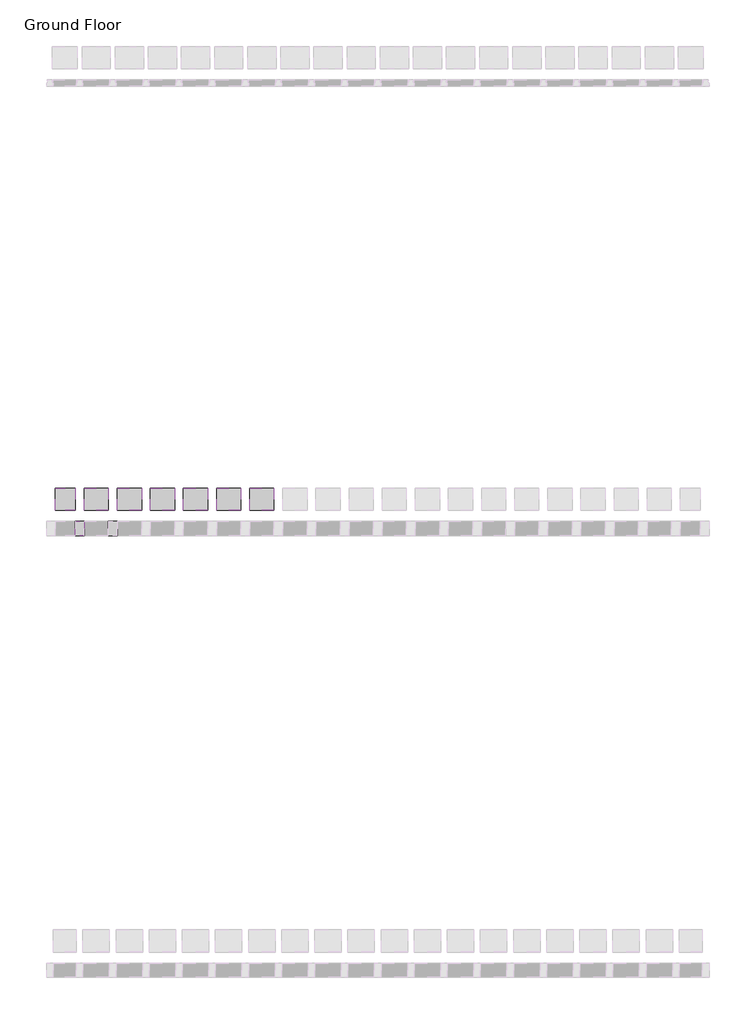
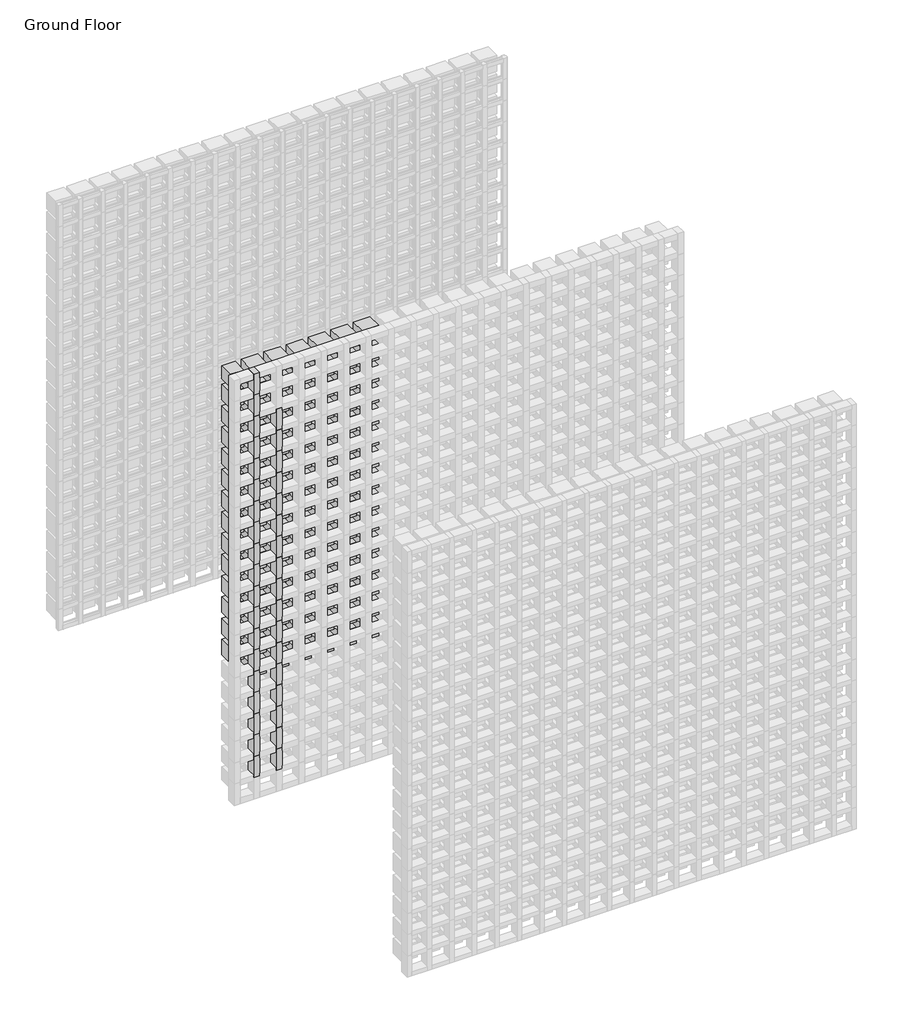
# One storey, part 80 of 350: 104 plates, 36 members.
"""IFC4 building model written with IfcOpenShell, lengths in millimetres."""

from ifc_helpers import new_model, si_unit, origin, place, context, project, spatial, transform, mapped, element, save
from components import rectangular_mullion_655930e9, empty_system_panel_empty_3b500fad, empty_system_panel_empty_e4510abc, empty_system_panel_empty_1faefc6a, empty_system_panel_empty_7f4523f5

model = new_model("IFC4")

# Units and contexts
model_context = context("Model", 3, world=origin())
ifc_project = project(units=[si_unit("LENGTHUNIT", "METRE", prefix="MILLI")], contexts=[model_context])

# Site, building, storey
site = spatial("IfcSite", under=ifc_project)
building = spatial("IfcBuilding", under=site)
storey = spatial("IfcBuildingStorey", under=building, Name="Ground Floor", Elevation=0.0)

# Members
placement = place(None, origin())
rectangular_mullion_shape = rectangular_mullion_655930e9(model_context)
element("IfcMember", 1, ObjectType="Rectangular Mullion : Batten_Timber_Modinex_Austratus_Grid_Fascia_40x65_AlaskanYellowCedar", at=placement, inside=storey, context=model_context, shape_type="MappedRepresentation", body=[
    mapped(rectangular_mullion_shape, transform((2066.4361642, 40968.2978302, 150.0), x_axis=(1.0, 0.0, 0.0), y_axis=(0.0, -1.0, 0.0), z_axis=(0.0, 0.0, -1.0))),
])
element("IfcMember", 2, ObjectType="Rectangular Mullion : Batten_Timber_Modinex_Austratus_Grid_Fascia_40x65_AlaskanYellowCedar", at=placement, inside=storey, context=model_context, shape_type="MappedRepresentation", body=[
    mapped(rectangular_mullion_shape, transform((2066.4361642, 40968.2978302, 300.0), x_axis=(1.0, 0.0, 0.0), y_axis=(0.0, -1.0, 0.0), z_axis=(0.0, 0.0, -1.0))),
])
element("IfcMember", 3, ObjectType="Rectangular Mullion : Batten_Timber_Modinex_Austratus_Grid_Fascia_40x65_AlaskanYellowCedar", at=placement, inside=storey, context=model_context, shape_type="MappedRepresentation", body=[
    mapped(rectangular_mullion_shape, transform((2066.4361642, 40968.2978302, 450.0), x_axis=(1.0, 0.0, 0.0), y_axis=(0.0, -1.0, 0.0), z_axis=(0.0, 0.0, -1.0))),
])
element("IfcMember", 4, ObjectType="Rectangular Mullion : Batten_Timber_Modinex_Austratus_Grid_Fascia_40x65_AlaskanYellowCedar", at=placement, inside=storey, context=model_context, shape_type="MappedRepresentation", body=[
    mapped(rectangular_mullion_shape, transform((2066.4361642, 40968.2978302, 600.0), x_axis=(1.0, 0.0, 0.0), y_axis=(0.0, -1.0, 0.0), z_axis=(0.0, 0.0, -1.0))),
])
element("IfcMember", 5, ObjectType="Rectangular Mullion : Batten_Timber_Modinex_Austratus_Grid_Fascia_40x65_AlaskanYellowCedar", at=placement, inside=storey, context=model_context, shape_type="MappedRepresentation", body=[
    mapped(rectangular_mullion_shape, transform((2066.4361642, 40968.2978302, 750.0), x_axis=(1.0, 0.0, 0.0), y_axis=(0.0, -1.0, 0.0), z_axis=(0.0, 0.0, -1.0))),
])
element("IfcMember", 6, ObjectType="Rectangular Mullion : Batten_Timber_Modinex_Austratus_Grid_Fascia_40x65_AlaskanYellowCedar", at=placement, inside=storey, context=model_context, shape_type="MappedRepresentation", body=[
    mapped(rectangular_mullion_shape, transform((2066.4361642, 40968.2978302, 900.0), x_axis=(1.0, 0.0, 0.0), y_axis=(0.0, -1.0, 0.0), z_axis=(0.0, 0.0, -1.0))),
])
element("IfcMember", 7, ObjectType="Rectangular Mullion : Batten_Timber_Modinex_Austratus_Grid_Fascia_40x65_AlaskanYellowCedar", at=placement, inside=storey, context=model_context, shape_type="MappedRepresentation", body=[
    mapped(rectangular_mullion_shape, transform((2066.4361642, 40968.2978302, 1050.0), x_axis=(1.0, 0.0, 0.0), y_axis=(0.0, -1.0, 0.0), z_axis=(0.0, 0.0, -1.0))),
])
element("IfcMember", 8, ObjectType="Rectangular Mullion : Batten_Timber_Modinex_Austratus_Grid_Fascia_40x65_AlaskanYellowCedar", at=placement, inside=storey, context=model_context, shape_type="MappedRepresentation", body=[
    mapped(rectangular_mullion_shape, transform((2066.4361642, 40968.2978302, 1200.0), x_axis=(1.0, 0.0, 0.0), y_axis=(0.0, -1.0, 0.0), z_axis=(0.0, 0.0, -1.0))),
])
element("IfcMember", 9, ObjectType="Rectangular Mullion : Batten_Timber_Modinex_Austratus_Grid_Fascia_40x65_AlaskanYellowCedar", at=placement, inside=storey, context=model_context, shape_type="MappedRepresentation", body=[
    mapped(rectangular_mullion_shape, transform((2066.4361642, 40968.2978302, 1350.0), x_axis=(1.0, 0.0, 0.0), y_axis=(0.0, -1.0, 0.0), z_axis=(0.0, 0.0, -1.0))),
])
element("IfcMember", 10, ObjectType="Rectangular Mullion : Batten_Timber_Modinex_Austratus_Grid_Fascia_40x65_AlaskanYellowCedar", at=placement, inside=storey, context=model_context, shape_type="MappedRepresentation", body=[
    mapped(rectangular_mullion_shape, transform((2066.4361642, 40968.2978302, 1500.0), x_axis=(1.0, 0.0, 0.0), y_axis=(0.0, -1.0, 0.0), z_axis=(0.0, 0.0, -1.0))),
])
element("IfcMember", 11, ObjectType="Rectangular Mullion : Batten_Timber_Modinex_Austratus_Grid_Fascia_40x65_AlaskanYellowCedar", at=placement, inside=storey, context=model_context, shape_type="MappedRepresentation", body=[
    mapped(rectangular_mullion_shape, transform((2066.4361642, 40968.2978302, 1650.0), x_axis=(1.0, 0.0, 0.0), y_axis=(0.0, -1.0, 0.0), z_axis=(0.0, 0.0, -1.0))),
])
element("IfcMember", 12, ObjectType="Rectangular Mullion : Batten_Timber_Modinex_Austratus_Grid_Fascia_40x65_AlaskanYellowCedar", at=placement, inside=storey, context=model_context, shape_type="MappedRepresentation", body=[
    mapped(rectangular_mullion_shape, transform((2066.4361642, 40968.2978302, 1800.0), x_axis=(1.0, 0.0, 0.0), y_axis=(0.0, -1.0, 0.0), z_axis=(0.0, 0.0, -1.0))),
])
element("IfcMember", 13, ObjectType="Rectangular Mullion : Batten_Timber_Modinex_Austratus_Grid_Fascia_40x65_AlaskanYellowCedar", at=placement, inside=storey, context=model_context, shape_type="MappedRepresentation", body=[
    mapped(rectangular_mullion_shape, transform((2066.4361642, 40968.2978302, 1950.0), x_axis=(1.0, 0.0, 0.0), y_axis=(0.0, -1.0, 0.0), z_axis=(0.0, 0.0, -1.0))),
])
element("IfcMember", 14, ObjectType="Rectangular Mullion : Batten_Timber_Modinex_Austratus_Grid_Fascia_40x65_AlaskanYellowCedar", at=placement, inside=storey, context=model_context, shape_type="MappedRepresentation", body=[
    mapped(rectangular_mullion_shape, transform((2066.4361642, 40968.2978302, 2100.0), x_axis=(1.0, 0.0, 0.0), y_axis=(0.0, -1.0, 0.0), z_axis=(0.0, 0.0, -1.0))),
])
element("IfcMember", 15, ObjectType="Rectangular Mullion : Batten_Timber_Modinex_Austratus_Grid_Fascia_40x65_AlaskanYellowCedar", at=placement, inside=storey, context=model_context, shape_type="MappedRepresentation", body=[
    mapped(rectangular_mullion_shape, transform((2066.4361642, 40968.2978302, 2250.0), x_axis=(1.0, 0.0, 0.0), y_axis=(0.0, -1.0, 0.0), z_axis=(0.0, 0.0, -1.0))),
])
element("IfcMember", 16, ObjectType="Rectangular Mullion : Batten_Timber_Modinex_Austratus_Grid_Fascia_40x65_AlaskanYellowCedar", at=placement, inside=storey, context=model_context, shape_type="MappedRepresentation", body=[
    mapped(rectangular_mullion_shape, transform((2066.4361642, 40968.2978302, 2400.0), x_axis=(1.0, 0.0, 0.0), y_axis=(0.0, -1.0, 0.0), z_axis=(0.0, 0.0, -1.0))),
])
element("IfcMember", 17, ObjectType="Rectangular Mullion : Batten_Timber_Modinex_Austratus_Grid_Fascia_40x65_AlaskanYellowCedar", at=placement, inside=storey, context=model_context, shape_type="MappedRepresentation", body=[
    mapped(rectangular_mullion_shape, transform((2066.4361642, 40968.2978302, 2550.0), x_axis=(1.0, 0.0, 0.0), y_axis=(0.0, -1.0, 0.0), z_axis=(0.0, 0.0, -1.0))),
])
element("IfcMember", 18, ObjectType="Rectangular Mullion : Batten_Timber_Modinex_Austratus_Grid_Fascia_40x65_AlaskanYellowCedar", at=placement, inside=storey, context=model_context, shape_type="MappedRepresentation", body=[
    mapped(rectangular_mullion_shape, transform((2066.4361642, 40968.2978302, 2700.0), x_axis=(1.0, 0.0, 0.0), y_axis=(0.0, -1.0, 0.0), z_axis=(0.0, 0.0, -1.0))),
])
element("IfcMember", 19, ObjectType="Rectangular Mullion : Batten_Timber_Modinex_Austratus_Grid_Fascia_40x65_AlaskanYellowCedar", at=placement, inside=storey, context=model_context, shape_type="MappedRepresentation", body=[
    mapped(rectangular_mullion_shape, transform((2216.4361642, 40968.2978302, 150.0), x_axis=(1.0, 0.0, 0.0), y_axis=(0.0, -1.0, 0.0), z_axis=(0.0, 0.0, -1.0))),
])
element("IfcMember", 20, ObjectType="Rectangular Mullion : Batten_Timber_Modinex_Austratus_Grid_Fascia_40x65_AlaskanYellowCedar", at=placement, inside=storey, context=model_context, shape_type="MappedRepresentation", body=[
    mapped(rectangular_mullion_shape, transform((2216.4361642, 40968.2978302, 300.0), x_axis=(1.0, 0.0, 0.0), y_axis=(0.0, -1.0, 0.0), z_axis=(0.0, 0.0, -1.0))),
])
element("IfcMember", 21, ObjectType="Rectangular Mullion : Batten_Timber_Modinex_Austratus_Grid_Fascia_40x65_AlaskanYellowCedar", at=placement, inside=storey, context=model_context, shape_type="MappedRepresentation", body=[
    mapped(rectangular_mullion_shape, transform((2216.4361642, 40968.2978302, 450.0), x_axis=(1.0, 0.0, 0.0), y_axis=(0.0, -1.0, 0.0), z_axis=(0.0, 0.0, -1.0))),
])
element("IfcMember", 22, ObjectType="Rectangular Mullion : Batten_Timber_Modinex_Austratus_Grid_Fascia_40x65_AlaskanYellowCedar", at=placement, inside=storey, context=model_context, shape_type="MappedRepresentation", body=[
    mapped(rectangular_mullion_shape, transform((2216.4361642, 40968.2978302, 600.0), x_axis=(1.0, 0.0, 0.0), y_axis=(0.0, -1.0, 0.0), z_axis=(0.0, 0.0, -1.0))),
])
element("IfcMember", 23, ObjectType="Rectangular Mullion : Batten_Timber_Modinex_Austratus_Grid_Fascia_40x65_AlaskanYellowCedar", at=placement, inside=storey, context=model_context, shape_type="MappedRepresentation", body=[
    mapped(rectangular_mullion_shape, transform((2216.4361642, 40968.2978302, 750.0), x_axis=(1.0, 0.0, 0.0), y_axis=(0.0, -1.0, 0.0), z_axis=(0.0, 0.0, -1.0))),
])
element("IfcMember", 24, ObjectType="Rectangular Mullion : Batten_Timber_Modinex_Austratus_Grid_Fascia_40x65_AlaskanYellowCedar", at=placement, inside=storey, context=model_context, shape_type="MappedRepresentation", body=[
    mapped(rectangular_mullion_shape, transform((2216.4361642, 40968.2978302, 900.0), x_axis=(1.0, 0.0, 0.0), y_axis=(0.0, -1.0, 0.0), z_axis=(0.0, 0.0, -1.0))),
])
element("IfcMember", 25, ObjectType="Rectangular Mullion : Batten_Timber_Modinex_Austratus_Grid_Fascia_40x65_AlaskanYellowCedar", at=placement, inside=storey, context=model_context, shape_type="MappedRepresentation", body=[
    mapped(rectangular_mullion_shape, transform((2216.4361642, 40968.2978302, 1050.0), x_axis=(1.0, 0.0, 0.0), y_axis=(0.0, -1.0, 0.0), z_axis=(0.0, 0.0, -1.0))),
])
element("IfcMember", 26, ObjectType="Rectangular Mullion : Batten_Timber_Modinex_Austratus_Grid_Fascia_40x65_AlaskanYellowCedar", at=placement, inside=storey, context=model_context, shape_type="MappedRepresentation", body=[
    mapped(rectangular_mullion_shape, transform((2216.4361642, 40968.2978302, 1200.0), x_axis=(1.0, 0.0, 0.0), y_axis=(0.0, -1.0, 0.0), z_axis=(0.0, 0.0, -1.0))),
])
element("IfcMember", 27, ObjectType="Rectangular Mullion : Batten_Timber_Modinex_Austratus_Grid_Fascia_40x65_AlaskanYellowCedar", at=placement, inside=storey, context=model_context, shape_type="MappedRepresentation", body=[
    mapped(rectangular_mullion_shape, transform((2216.4361642, 40968.2978302, 1350.0), x_axis=(1.0, 0.0, 0.0), y_axis=(0.0, -1.0, 0.0), z_axis=(0.0, 0.0, -1.0))),
])
element("IfcMember", 28, ObjectType="Rectangular Mullion : Batten_Timber_Modinex_Austratus_Grid_Fascia_40x65_AlaskanYellowCedar", at=placement, inside=storey, context=model_context, shape_type="MappedRepresentation", body=[
    mapped(rectangular_mullion_shape, transform((2216.4361642, 40968.2978302, 1500.0), x_axis=(1.0, 0.0, 0.0), y_axis=(0.0, -1.0, 0.0), z_axis=(0.0, 0.0, -1.0))),
])
element("IfcMember", 29, ObjectType="Rectangular Mullion : Batten_Timber_Modinex_Austratus_Grid_Fascia_40x65_AlaskanYellowCedar", at=placement, inside=storey, context=model_context, shape_type="MappedRepresentation", body=[
    mapped(rectangular_mullion_shape, transform((2216.4361642, 40968.2978302, 1650.0), x_axis=(1.0, 0.0, 0.0), y_axis=(0.0, -1.0, 0.0), z_axis=(0.0, 0.0, -1.0))),
])
element("IfcMember", 30, ObjectType="Rectangular Mullion : Batten_Timber_Modinex_Austratus_Grid_Fascia_40x65_AlaskanYellowCedar", at=placement, inside=storey, context=model_context, shape_type="MappedRepresentation", body=[
    mapped(rectangular_mullion_shape, transform((2216.4361642, 40968.2978302, 1800.0), x_axis=(1.0, 0.0, 0.0), y_axis=(0.0, -1.0, 0.0), z_axis=(0.0, 0.0, -1.0))),
])
element("IfcMember", 31, ObjectType="Rectangular Mullion : Batten_Timber_Modinex_Austratus_Grid_Fascia_40x65_AlaskanYellowCedar", at=placement, inside=storey, context=model_context, shape_type="MappedRepresentation", body=[
    mapped(rectangular_mullion_shape, transform((2216.4361642, 40968.2978302, 1950.0), x_axis=(1.0, 0.0, 0.0), y_axis=(0.0, -1.0, 0.0), z_axis=(0.0, 0.0, -1.0))),
])
element("IfcMember", 32, ObjectType="Rectangular Mullion : Batten_Timber_Modinex_Austratus_Grid_Fascia_40x65_AlaskanYellowCedar", at=placement, inside=storey, context=model_context, shape_type="MappedRepresentation", body=[
    mapped(rectangular_mullion_shape, transform((2216.4361642, 40968.2978302, 2100.0), x_axis=(1.0, 0.0, 0.0), y_axis=(0.0, -1.0, 0.0), z_axis=(0.0, 0.0, -1.0))),
])
element("IfcMember", 33, ObjectType="Rectangular Mullion : Batten_Timber_Modinex_Austratus_Grid_Fascia_40x65_AlaskanYellowCedar", at=placement, inside=storey, context=model_context, shape_type="MappedRepresentation", body=[
    mapped(rectangular_mullion_shape, transform((2216.4361642, 40968.2978302, 2250.0), x_axis=(1.0, 0.0, 0.0), y_axis=(0.0, -1.0, 0.0), z_axis=(0.0, 0.0, -1.0))),
])
element("IfcMember", 34, ObjectType="Rectangular Mullion : Batten_Timber_Modinex_Austratus_Grid_Fascia_40x65_AlaskanYellowCedar", at=placement, inside=storey, context=model_context, shape_type="MappedRepresentation", body=[
    mapped(rectangular_mullion_shape, transform((2216.4361642, 40968.2978302, 2400.0), x_axis=(1.0, 0.0, 0.0), y_axis=(0.0, -1.0, 0.0), z_axis=(0.0, 0.0, -1.0))),
])
element("IfcMember", 35, ObjectType="Rectangular Mullion : Batten_Timber_Modinex_Austratus_Grid_Fascia_40x65_AlaskanYellowCedar", at=placement, inside=storey, context=model_context, shape_type="MappedRepresentation", body=[
    mapped(rectangular_mullion_shape, transform((2216.4361642, 40968.2978302, 2550.0), x_axis=(1.0, 0.0, 0.0), y_axis=(0.0, -1.0, 0.0), z_axis=(0.0, 0.0, -1.0))),
])
element("IfcMember", 36, ObjectType="Rectangular Mullion : Batten_Timber_Modinex_Austratus_Grid_Fascia_40x65_AlaskanYellowCedar", at=placement, inside=storey, context=model_context, shape_type="MappedRepresentation", body=[
    mapped(rectangular_mullion_shape, transform((2066.4361642, 40968.2978302, 2850.0), x_axis=(1.0, 0.0, 0.0), y_axis=(0.0, -1.0, 0.0), z_axis=(0.0, 0.0, -1.0))),
])

# Plates
empty_system_panel_empty_shape = empty_system_panel_empty_3b500fad(model_context)
element("IfcPlate", 37, ObjectType="Empty System Panel : Empty", at=placement, inside=storey, context=model_context, shape_type="MappedRepresentation", body=[
    mapped(empty_system_panel_empty_shape, transform((2141.4361642, 40968.2978302, 770.0), x_axis=(1.0, 0.0, 0.0), y_axis=(0.0, 1.0, 0.0), z_axis=(0.0, 0.0, 1.0))),
])
element("IfcPlate", 38, ObjectType="Empty System Panel : Empty", at=placement, inside=storey, context=model_context, shape_type="MappedRepresentation", body=[
    mapped(empty_system_panel_empty_shape, transform((2291.4361642, 40968.2978302, 770.0), x_axis=(1.0, 0.0, 0.0), y_axis=(0.0, 1.0, 0.0), z_axis=(0.0, 0.0, 1.0))),
])
element("IfcPlate", 39, ObjectType="Empty System Panel : Empty", at=placement, inside=storey, context=model_context, shape_type="MappedRepresentation", body=[
    mapped(empty_system_panel_empty_shape, transform((2441.4361642, 40968.2978302, 770.0), x_axis=(1.0, 0.0, 0.0), y_axis=(0.0, 1.0, 0.0), z_axis=(0.0, 0.0, 1.0))),
])
element("IfcPlate", 40, ObjectType="Empty System Panel : Empty", at=placement, inside=storey, context=model_context, shape_type="MappedRepresentation", body=[
    mapped(empty_system_panel_empty_shape, transform((2591.4361642, 40968.2978302, 770.0), x_axis=(1.0, 0.0, 0.0), y_axis=(0.0, 1.0, 0.0), z_axis=(0.0, 0.0, 1.0))),
])
element("IfcPlate", 41, ObjectType="Empty System Panel : Empty", at=placement, inside=storey, context=model_context, shape_type="MappedRepresentation", body=[
    mapped(empty_system_panel_empty_shape, transform((2741.4361642, 40968.2978302, 770.0), x_axis=(1.0, 0.0, 0.0), y_axis=(0.0, 1.0, 0.0), z_axis=(0.0, 0.0, 1.0))),
])
element("IfcPlate", 42, ObjectType="Empty System Panel : Empty", at=placement, inside=storey, context=model_context, shape_type="MappedRepresentation", body=[
    mapped(empty_system_panel_empty_shape, transform((2891.4361642, 40968.2978302, 770.0), x_axis=(1.0, 0.0, 0.0), y_axis=(0.0, 1.0, 0.0), z_axis=(0.0, 0.0, 1.0))),
])
element("IfcPlate", 43, ObjectType="Empty System Panel : Empty", at=placement, inside=storey, context=model_context, shape_type="MappedRepresentation", body=[
    mapped(empty_system_panel_empty_shape, transform((2141.4361642, 40968.2978302, 920.0), x_axis=(1.0, 0.0, 0.0), y_axis=(0.0, 1.0, 0.0), z_axis=(0.0, 0.0, 1.0))),
])
element("IfcPlate", 44, ObjectType="Empty System Panel : Empty", at=placement, inside=storey, context=model_context, shape_type="MappedRepresentation", body=[
    mapped(empty_system_panel_empty_shape, transform((2291.4361642, 40968.2978302, 920.0), x_axis=(1.0, 0.0, 0.0), y_axis=(0.0, 1.0, 0.0), z_axis=(0.0, 0.0, 1.0))),
])
element("IfcPlate", 45, ObjectType="Empty System Panel : Empty", at=placement, inside=storey, context=model_context, shape_type="MappedRepresentation", body=[
    mapped(empty_system_panel_empty_shape, transform((2441.4361642, 40968.2978302, 920.0), x_axis=(1.0, 0.0, 0.0), y_axis=(0.0, 1.0, 0.0), z_axis=(0.0, 0.0, 1.0))),
])
element("IfcPlate", 46, ObjectType="Empty System Panel : Empty", at=placement, inside=storey, context=model_context, shape_type="MappedRepresentation", body=[
    mapped(empty_system_panel_empty_shape, transform((2591.4361642, 40968.2978302, 920.0), x_axis=(1.0, 0.0, 0.0), y_axis=(0.0, 1.0, 0.0), z_axis=(0.0, 0.0, 1.0))),
])
element("IfcPlate", 47, ObjectType="Empty System Panel : Empty", at=placement, inside=storey, context=model_context, shape_type="MappedRepresentation", body=[
    mapped(empty_system_panel_empty_shape, transform((2741.4361642, 40968.2978302, 920.0), x_axis=(1.0, 0.0, 0.0), y_axis=(0.0, 1.0, 0.0), z_axis=(0.0, 0.0, 1.0))),
])
element("IfcPlate", 48, ObjectType="Empty System Panel : Empty", at=placement, inside=storey, context=model_context, shape_type="MappedRepresentation", body=[
    mapped(empty_system_panel_empty_shape, transform((2891.4361642, 40968.2978302, 920.0), x_axis=(1.0, 0.0, 0.0), y_axis=(0.0, 1.0, 0.0), z_axis=(0.0, 0.0, 1.0))),
])
element("IfcPlate", 49, ObjectType="Empty System Panel : Empty", at=placement, inside=storey, context=model_context, shape_type="MappedRepresentation", body=[
    mapped(empty_system_panel_empty_shape, transform((2141.4361642, 40968.2978302, 1070.0), x_axis=(1.0, 0.0, 0.0), y_axis=(0.0, 1.0, 0.0), z_axis=(0.0, 0.0, 1.0))),
])
element("IfcPlate", 50, ObjectType="Empty System Panel : Empty", at=placement, inside=storey, context=model_context, shape_type="MappedRepresentation", body=[
    mapped(empty_system_panel_empty_shape, transform((2291.4361642, 40968.2978302, 1070.0), x_axis=(1.0, 0.0, 0.0), y_axis=(0.0, 1.0, 0.0), z_axis=(0.0, 0.0, 1.0))),
])
element("IfcPlate", 51, ObjectType="Empty System Panel : Empty", at=placement, inside=storey, context=model_context, shape_type="MappedRepresentation", body=[
    mapped(empty_system_panel_empty_shape, transform((2441.4361642, 40968.2978302, 1070.0), x_axis=(1.0, 0.0, 0.0), y_axis=(0.0, 1.0, 0.0), z_axis=(0.0, 0.0, 1.0))),
])
element("IfcPlate", 52, ObjectType="Empty System Panel : Empty", at=placement, inside=storey, context=model_context, shape_type="MappedRepresentation", body=[
    mapped(empty_system_panel_empty_shape, transform((2591.4361642, 40968.2978302, 1070.0), x_axis=(1.0, 0.0, 0.0), y_axis=(0.0, 1.0, 0.0), z_axis=(0.0, 0.0, 1.0))),
])
element("IfcPlate", 53, ObjectType="Empty System Panel : Empty", at=placement, inside=storey, context=model_context, shape_type="MappedRepresentation", body=[
    mapped(empty_system_panel_empty_shape, transform((2741.4361642, 40968.2978302, 1070.0), x_axis=(1.0, 0.0, 0.0), y_axis=(0.0, 1.0, 0.0), z_axis=(0.0, 0.0, 1.0))),
])
element("IfcPlate", 54, ObjectType="Empty System Panel : Empty", at=placement, inside=storey, context=model_context, shape_type="MappedRepresentation", body=[
    mapped(empty_system_panel_empty_shape, transform((2891.4361642, 40968.2978302, 1070.0), x_axis=(1.0, 0.0, 0.0), y_axis=(0.0, 1.0, 0.0), z_axis=(0.0, 0.0, 1.0))),
])
element("IfcPlate", 55, ObjectType="Empty System Panel : Empty", at=placement, inside=storey, context=model_context, shape_type="MappedRepresentation", body=[
    mapped(empty_system_panel_empty_shape, transform((2141.4361642, 40968.2978302, 1220.0), x_axis=(1.0, 0.0, 0.0), y_axis=(0.0, 1.0, 0.0), z_axis=(0.0, 0.0, 1.0))),
])
element("IfcPlate", 56, ObjectType="Empty System Panel : Empty", at=placement, inside=storey, context=model_context, shape_type="MappedRepresentation", body=[
    mapped(empty_system_panel_empty_shape, transform((2291.4361642, 40968.2978302, 1220.0), x_axis=(1.0, 0.0, 0.0), y_axis=(0.0, 1.0, 0.0), z_axis=(0.0, 0.0, 1.0))),
])
element("IfcPlate", 57, ObjectType="Empty System Panel : Empty", at=placement, inside=storey, context=model_context, shape_type="MappedRepresentation", body=[
    mapped(empty_system_panel_empty_shape, transform((2441.4361642, 40968.2978302, 1220.0), x_axis=(1.0, 0.0, 0.0), y_axis=(0.0, 1.0, 0.0), z_axis=(0.0, 0.0, 1.0))),
])
element("IfcPlate", 58, ObjectType="Empty System Panel : Empty", at=placement, inside=storey, context=model_context, shape_type="MappedRepresentation", body=[
    mapped(empty_system_panel_empty_shape, transform((2591.4361642, 40968.2978302, 1220.0), x_axis=(1.0, 0.0, 0.0), y_axis=(0.0, 1.0, 0.0), z_axis=(0.0, 0.0, 1.0))),
])
element("IfcPlate", 59, ObjectType="Empty System Panel : Empty", at=placement, inside=storey, context=model_context, shape_type="MappedRepresentation", body=[
    mapped(empty_system_panel_empty_shape, transform((2741.4361642, 40968.2978302, 1220.0), x_axis=(1.0, 0.0, 0.0), y_axis=(0.0, 1.0, 0.0), z_axis=(0.0, 0.0, 1.0))),
])
element("IfcPlate", 60, ObjectType="Empty System Panel : Empty", at=placement, inside=storey, context=model_context, shape_type="MappedRepresentation", body=[
    mapped(empty_system_panel_empty_shape, transform((2891.4361642, 40968.2978302, 1220.0), x_axis=(1.0, 0.0, 0.0), y_axis=(0.0, 1.0, 0.0), z_axis=(0.0, 0.0, 1.0))),
])
element("IfcPlate", 61, ObjectType="Empty System Panel : Empty", at=placement, inside=storey, context=model_context, shape_type="MappedRepresentation", body=[
    mapped(empty_system_panel_empty_shape, transform((2141.4361642, 40968.2978302, 1370.0), x_axis=(1.0, 0.0, 0.0), y_axis=(0.0, 1.0, 0.0), z_axis=(0.0, 0.0, 1.0))),
])
element("IfcPlate", 62, ObjectType="Empty System Panel : Empty", at=placement, inside=storey, context=model_context, shape_type="MappedRepresentation", body=[
    mapped(empty_system_panel_empty_shape, transform((2291.4361642, 40968.2978302, 1370.0), x_axis=(1.0, 0.0, 0.0), y_axis=(0.0, 1.0, 0.0), z_axis=(0.0, 0.0, 1.0))),
])
element("IfcPlate", 63, ObjectType="Empty System Panel : Empty", at=placement, inside=storey, context=model_context, shape_type="MappedRepresentation", body=[
    mapped(empty_system_panel_empty_shape, transform((2441.4361642, 40968.2978302, 1370.0), x_axis=(1.0, 0.0, 0.0), y_axis=(0.0, 1.0, 0.0), z_axis=(0.0, 0.0, 1.0))),
])
element("IfcPlate", 64, ObjectType="Empty System Panel : Empty", at=placement, inside=storey, context=model_context, shape_type="MappedRepresentation", body=[
    mapped(empty_system_panel_empty_shape, transform((2591.4361642, 40968.2978302, 1370.0), x_axis=(1.0, 0.0, 0.0), y_axis=(0.0, 1.0, 0.0), z_axis=(0.0, 0.0, 1.0))),
])
element("IfcPlate", 65, ObjectType="Empty System Panel : Empty", at=placement, inside=storey, context=model_context, shape_type="MappedRepresentation", body=[
    mapped(empty_system_panel_empty_shape, transform((2741.4361642, 40968.2978302, 1370.0), x_axis=(1.0, 0.0, 0.0), y_axis=(0.0, 1.0, 0.0), z_axis=(0.0, 0.0, 1.0))),
])
element("IfcPlate", 66, ObjectType="Empty System Panel : Empty", at=placement, inside=storey, context=model_context, shape_type="MappedRepresentation", body=[
    mapped(empty_system_panel_empty_shape, transform((2891.4361642, 40968.2978302, 1370.0), x_axis=(1.0, 0.0, 0.0), y_axis=(0.0, 1.0, 0.0), z_axis=(0.0, 0.0, 1.0))),
])
element("IfcPlate", 67, ObjectType="Empty System Panel : Empty", at=placement, inside=storey, context=model_context, shape_type="MappedRepresentation", body=[
    mapped(empty_system_panel_empty_shape, transform((2141.4361642, 40968.2978302, 1520.0), x_axis=(1.0, 0.0, 0.0), y_axis=(0.0, 1.0, 0.0), z_axis=(0.0, 0.0, 1.0))),
])
element("IfcPlate", 68, ObjectType="Empty System Panel : Empty", at=placement, inside=storey, context=model_context, shape_type="MappedRepresentation", body=[
    mapped(empty_system_panel_empty_shape, transform((2291.4361642, 40968.2978302, 1520.0), x_axis=(1.0, 0.0, 0.0), y_axis=(0.0, 1.0, 0.0), z_axis=(0.0, 0.0, 1.0))),
])
element("IfcPlate", 69, ObjectType="Empty System Panel : Empty", at=placement, inside=storey, context=model_context, shape_type="MappedRepresentation", body=[
    mapped(empty_system_panel_empty_shape, transform((2441.4361642, 40968.2978302, 1520.0), x_axis=(1.0, 0.0, 0.0), y_axis=(0.0, 1.0, 0.0), z_axis=(0.0, 0.0, 1.0))),
])
element("IfcPlate", 70, ObjectType="Empty System Panel : Empty", at=placement, inside=storey, context=model_context, shape_type="MappedRepresentation", body=[
    mapped(empty_system_panel_empty_shape, transform((2591.4361642, 40968.2978302, 1520.0), x_axis=(1.0, 0.0, 0.0), y_axis=(0.0, 1.0, 0.0), z_axis=(0.0, 0.0, 1.0))),
])
element("IfcPlate", 71, ObjectType="Empty System Panel : Empty", at=placement, inside=storey, context=model_context, shape_type="MappedRepresentation", body=[
    mapped(empty_system_panel_empty_shape, transform((2741.4361642, 40968.2978302, 1520.0), x_axis=(1.0, 0.0, 0.0), y_axis=(0.0, 1.0, 0.0), z_axis=(0.0, 0.0, 1.0))),
])
element("IfcPlate", 72, ObjectType="Empty System Panel : Empty", at=placement, inside=storey, context=model_context, shape_type="MappedRepresentation", body=[
    mapped(empty_system_panel_empty_shape, transform((2891.4361642, 40968.2978302, 1520.0), x_axis=(1.0, 0.0, 0.0), y_axis=(0.0, 1.0, 0.0), z_axis=(0.0, 0.0, 1.0))),
])
element("IfcPlate", 73, ObjectType="Empty System Panel : Empty", at=placement, inside=storey, context=model_context, shape_type="MappedRepresentation", body=[
    mapped(empty_system_panel_empty_shape, transform((2141.4361642, 40968.2978302, 1670.0), x_axis=(1.0, 0.0, 0.0), y_axis=(0.0, 1.0, 0.0), z_axis=(0.0, 0.0, 1.0))),
])
element("IfcPlate", 74, ObjectType="Empty System Panel : Empty", at=placement, inside=storey, context=model_context, shape_type="MappedRepresentation", body=[
    mapped(empty_system_panel_empty_shape, transform((2291.4361642, 40968.2978302, 1670.0), x_axis=(1.0, 0.0, 0.0), y_axis=(0.0, 1.0, 0.0), z_axis=(0.0, 0.0, 1.0))),
])
element("IfcPlate", 75, ObjectType="Empty System Panel : Empty", at=placement, inside=storey, context=model_context, shape_type="MappedRepresentation", body=[
    mapped(empty_system_panel_empty_shape, transform((2441.4361642, 40968.2978302, 1670.0), x_axis=(1.0, 0.0, 0.0), y_axis=(0.0, 1.0, 0.0), z_axis=(0.0, 0.0, 1.0))),
])
element("IfcPlate", 76, ObjectType="Empty System Panel : Empty", at=placement, inside=storey, context=model_context, shape_type="MappedRepresentation", body=[
    mapped(empty_system_panel_empty_shape, transform((2591.4361642, 40968.2978302, 1670.0), x_axis=(1.0, 0.0, 0.0), y_axis=(0.0, 1.0, 0.0), z_axis=(0.0, 0.0, 1.0))),
])
element("IfcPlate", 77, ObjectType="Empty System Panel : Empty", at=placement, inside=storey, context=model_context, shape_type="MappedRepresentation", body=[
    mapped(empty_system_panel_empty_shape, transform((2741.4361642, 40968.2978302, 1670.0), x_axis=(1.0, 0.0, 0.0), y_axis=(0.0, 1.0, 0.0), z_axis=(0.0, 0.0, 1.0))),
])
element("IfcPlate", 78, ObjectType="Empty System Panel : Empty", at=placement, inside=storey, context=model_context, shape_type="MappedRepresentation", body=[
    mapped(empty_system_panel_empty_shape, transform((2891.4361642, 40968.2978302, 1670.0), x_axis=(1.0, 0.0, 0.0), y_axis=(0.0, 1.0, 0.0), z_axis=(0.0, 0.0, 1.0))),
])
element("IfcPlate", 79, ObjectType="Empty System Panel : Empty", at=placement, inside=storey, context=model_context, shape_type="MappedRepresentation", body=[
    mapped(empty_system_panel_empty_shape, transform((2141.4361642, 40968.2978302, 1820.0), x_axis=(1.0, 0.0, 0.0), y_axis=(0.0, 1.0, 0.0), z_axis=(0.0, 0.0, 1.0))),
])
element("IfcPlate", 80, ObjectType="Empty System Panel : Empty", at=placement, inside=storey, context=model_context, shape_type="MappedRepresentation", body=[
    mapped(empty_system_panel_empty_shape, transform((2291.4361642, 40968.2978302, 1820.0), x_axis=(1.0, 0.0, 0.0), y_axis=(0.0, 1.0, 0.0), z_axis=(0.0, 0.0, 1.0))),
])
element("IfcPlate", 81, ObjectType="Empty System Panel : Empty", at=placement, inside=storey, context=model_context, shape_type="MappedRepresentation", body=[
    mapped(empty_system_panel_empty_shape, transform((2441.4361642, 40968.2978302, 1820.0), x_axis=(1.0, 0.0, 0.0), y_axis=(0.0, 1.0, 0.0), z_axis=(0.0, 0.0, 1.0))),
])
element("IfcPlate", 82, ObjectType="Empty System Panel : Empty", at=placement, inside=storey, context=model_context, shape_type="MappedRepresentation", body=[
    mapped(empty_system_panel_empty_shape, transform((2591.4361642, 40968.2978302, 1820.0), x_axis=(1.0, 0.0, 0.0), y_axis=(0.0, 1.0, 0.0), z_axis=(0.0, 0.0, 1.0))),
])
element("IfcPlate", 83, ObjectType="Empty System Panel : Empty", at=placement, inside=storey, context=model_context, shape_type="MappedRepresentation", body=[
    mapped(empty_system_panel_empty_shape, transform((2741.4361642, 40968.2978302, 1820.0), x_axis=(1.0, 0.0, 0.0), y_axis=(0.0, 1.0, 0.0), z_axis=(0.0, 0.0, 1.0))),
])
element("IfcPlate", 84, ObjectType="Empty System Panel : Empty", at=placement, inside=storey, context=model_context, shape_type="MappedRepresentation", body=[
    mapped(empty_system_panel_empty_shape, transform((2891.4361642, 40968.2978302, 1820.0), x_axis=(1.0, 0.0, 0.0), y_axis=(0.0, 1.0, 0.0), z_axis=(0.0, 0.0, 1.0))),
])
element("IfcPlate", 85, ObjectType="Empty System Panel : Empty", at=placement, inside=storey, context=model_context, shape_type="MappedRepresentation", body=[
    mapped(empty_system_panel_empty_shape, transform((2141.4361642, 40968.2978302, 1970.0), x_axis=(1.0, 0.0, 0.0), y_axis=(0.0, 1.0, 0.0), z_axis=(0.0, 0.0, 1.0))),
])
element("IfcPlate", 86, ObjectType="Empty System Panel : Empty", at=placement, inside=storey, context=model_context, shape_type="MappedRepresentation", body=[
    mapped(empty_system_panel_empty_shape, transform((2291.4361642, 40968.2978302, 1970.0), x_axis=(1.0, 0.0, 0.0), y_axis=(0.0, 1.0, 0.0), z_axis=(0.0, 0.0, 1.0))),
])
element("IfcPlate", 87, ObjectType="Empty System Panel : Empty", at=placement, inside=storey, context=model_context, shape_type="MappedRepresentation", body=[
    mapped(empty_system_panel_empty_shape, transform((2441.4361642, 40968.2978302, 1970.0), x_axis=(1.0, 0.0, 0.0), y_axis=(0.0, 1.0, 0.0), z_axis=(0.0, 0.0, 1.0))),
])
element("IfcPlate", 88, ObjectType="Empty System Panel : Empty", at=placement, inside=storey, context=model_context, shape_type="MappedRepresentation", body=[
    mapped(empty_system_panel_empty_shape, transform((2591.4361642, 40968.2978302, 1970.0), x_axis=(1.0, 0.0, 0.0), y_axis=(0.0, 1.0, 0.0), z_axis=(0.0, 0.0, 1.0))),
])
element("IfcPlate", 89, ObjectType="Empty System Panel : Empty", at=placement, inside=storey, context=model_context, shape_type="MappedRepresentation", body=[
    mapped(empty_system_panel_empty_shape, transform((2741.4361642, 40968.2978302, 1970.0), x_axis=(1.0, 0.0, 0.0), y_axis=(0.0, 1.0, 0.0), z_axis=(0.0, 0.0, 1.0))),
])
element("IfcPlate", 90, ObjectType="Empty System Panel : Empty", at=placement, inside=storey, context=model_context, shape_type="MappedRepresentation", body=[
    mapped(empty_system_panel_empty_shape, transform((2891.4361642, 40968.2978302, 1970.0), x_axis=(1.0, 0.0, 0.0), y_axis=(0.0, 1.0, 0.0), z_axis=(0.0, 0.0, 1.0))),
])
element("IfcPlate", 91, ObjectType="Empty System Panel : Empty", at=placement, inside=storey, context=model_context, shape_type="MappedRepresentation", body=[
    mapped(empty_system_panel_empty_shape, transform((2141.4361642, 40968.2978302, 2120.0), x_axis=(1.0, 0.0, 0.0), y_axis=(0.0, 1.0, 0.0), z_axis=(0.0, 0.0, 1.0))),
])
element("IfcPlate", 92, ObjectType="Empty System Panel : Empty", at=placement, inside=storey, context=model_context, shape_type="MappedRepresentation", body=[
    mapped(empty_system_panel_empty_shape, transform((2291.4361642, 40968.2978302, 2120.0), x_axis=(1.0, 0.0, 0.0), y_axis=(0.0, 1.0, 0.0), z_axis=(0.0, 0.0, 1.0))),
])
element("IfcPlate", 93, ObjectType="Empty System Panel : Empty", at=placement, inside=storey, context=model_context, shape_type="MappedRepresentation", body=[
    mapped(empty_system_panel_empty_shape, transform((2441.4361642, 40968.2978302, 2120.0), x_axis=(1.0, 0.0, 0.0), y_axis=(0.0, 1.0, 0.0), z_axis=(0.0, 0.0, 1.0))),
])
element("IfcPlate", 94, ObjectType="Empty System Panel : Empty", at=placement, inside=storey, context=model_context, shape_type="MappedRepresentation", body=[
    mapped(empty_system_panel_empty_shape, transform((2591.4361642, 40968.2978302, 2120.0), x_axis=(1.0, 0.0, 0.0), y_axis=(0.0, 1.0, 0.0), z_axis=(0.0, 0.0, 1.0))),
])
element("IfcPlate", 95, ObjectType="Empty System Panel : Empty", at=placement, inside=storey, context=model_context, shape_type="MappedRepresentation", body=[
    mapped(empty_system_panel_empty_shape, transform((2741.4361642, 40968.2978302, 2120.0), x_axis=(1.0, 0.0, 0.0), y_axis=(0.0, 1.0, 0.0), z_axis=(0.0, 0.0, 1.0))),
])
element("IfcPlate", 96, ObjectType="Empty System Panel : Empty", at=placement, inside=storey, context=model_context, shape_type="MappedRepresentation", body=[
    mapped(empty_system_panel_empty_shape, transform((2891.4361642, 40968.2978302, 2120.0), x_axis=(1.0, 0.0, 0.0), y_axis=(0.0, 1.0, 0.0), z_axis=(0.0, 0.0, 1.0))),
])
element("IfcPlate", 97, ObjectType="Empty System Panel : Empty", at=placement, inside=storey, context=model_context, shape_type="MappedRepresentation", body=[
    mapped(empty_system_panel_empty_shape, transform((2141.4361642, 40968.2978302, 2270.0), x_axis=(1.0, 0.0, 0.0), y_axis=(0.0, 1.0, 0.0), z_axis=(0.0, 0.0, 1.0))),
])
element("IfcPlate", 98, ObjectType="Empty System Panel : Empty", at=placement, inside=storey, context=model_context, shape_type="MappedRepresentation", body=[
    mapped(empty_system_panel_empty_shape, transform((2291.4361642, 40968.2978302, 2270.0), x_axis=(1.0, 0.0, 0.0), y_axis=(0.0, 1.0, 0.0), z_axis=(0.0, 0.0, 1.0))),
])
element("IfcPlate", 99, ObjectType="Empty System Panel : Empty", at=placement, inside=storey, context=model_context, shape_type="MappedRepresentation", body=[
    mapped(empty_system_panel_empty_shape, transform((2441.4361642, 40968.2978302, 2270.0), x_axis=(1.0, 0.0, 0.0), y_axis=(0.0, 1.0, 0.0), z_axis=(0.0, 0.0, 1.0))),
])
element("IfcPlate", 100, ObjectType="Empty System Panel : Empty", at=placement, inside=storey, context=model_context, shape_type="MappedRepresentation", body=[
    mapped(empty_system_panel_empty_shape, transform((2591.4361642, 40968.2978302, 2270.0), x_axis=(1.0, 0.0, 0.0), y_axis=(0.0, 1.0, 0.0), z_axis=(0.0, 0.0, 1.0))),
])
element("IfcPlate", 101, ObjectType="Empty System Panel : Empty", at=placement, inside=storey, context=model_context, shape_type="MappedRepresentation", body=[
    mapped(empty_system_panel_empty_shape, transform((2741.4361642, 40968.2978302, 2270.0), x_axis=(1.0, 0.0, 0.0), y_axis=(0.0, 1.0, 0.0), z_axis=(0.0, 0.0, 1.0))),
])
element("IfcPlate", 102, ObjectType="Empty System Panel : Empty", at=placement, inside=storey, context=model_context, shape_type="MappedRepresentation", body=[
    mapped(empty_system_panel_empty_shape, transform((2891.4361642, 40968.2978302, 2270.0), x_axis=(1.0, 0.0, 0.0), y_axis=(0.0, 1.0, 0.0), z_axis=(0.0, 0.0, 1.0))),
])
element("IfcPlate", 103, ObjectType="Empty System Panel : Empty", at=placement, inside=storey, context=model_context, shape_type="MappedRepresentation", body=[
    mapped(empty_system_panel_empty_shape, transform((2141.4361642, 40968.2978302, 2420.0), x_axis=(1.0, 0.0, 0.0), y_axis=(0.0, 1.0, 0.0), z_axis=(0.0, 0.0, 1.0))),
])
element("IfcPlate", 104, ObjectType="Empty System Panel : Empty", at=placement, inside=storey, context=model_context, shape_type="MappedRepresentation", body=[
    mapped(empty_system_panel_empty_shape, transform((2291.4361642, 40968.2978302, 2420.0), x_axis=(1.0, 0.0, 0.0), y_axis=(0.0, 1.0, 0.0), z_axis=(0.0, 0.0, 1.0))),
])
element("IfcPlate", 105, ObjectType="Empty System Panel : Empty", at=placement, inside=storey, context=model_context, shape_type="MappedRepresentation", body=[
    mapped(empty_system_panel_empty_shape, transform((2441.4361642, 40968.2978302, 2420.0), x_axis=(1.0, 0.0, 0.0), y_axis=(0.0, 1.0, 0.0), z_axis=(0.0, 0.0, 1.0))),
])
element("IfcPlate", 106, ObjectType="Empty System Panel : Empty", at=placement, inside=storey, context=model_context, shape_type="MappedRepresentation", body=[
    mapped(empty_system_panel_empty_shape, transform((2591.4361642, 40968.2978302, 2420.0), x_axis=(1.0, 0.0, 0.0), y_axis=(0.0, 1.0, 0.0), z_axis=(0.0, 0.0, 1.0))),
])
element("IfcPlate", 107, ObjectType="Empty System Panel : Empty", at=placement, inside=storey, context=model_context, shape_type="MappedRepresentation", body=[
    mapped(empty_system_panel_empty_shape, transform((2741.4361642, 40968.2978302, 2420.0), x_axis=(1.0, 0.0, 0.0), y_axis=(0.0, 1.0, 0.0), z_axis=(0.0, 0.0, 1.0))),
])
element("IfcPlate", 108, ObjectType="Empty System Panel : Empty", at=placement, inside=storey, context=model_context, shape_type="MappedRepresentation", body=[
    mapped(empty_system_panel_empty_shape, transform((2891.4361642, 40968.2978302, 2420.0), x_axis=(1.0, 0.0, 0.0), y_axis=(0.0, 1.0, 0.0), z_axis=(0.0, 0.0, 1.0))),
])
element("IfcPlate", 109, ObjectType="Empty System Panel : Empty", at=placement, inside=storey, context=model_context, shape_type="MappedRepresentation", body=[
    mapped(empty_system_panel_empty_shape, transform((2141.4361642, 40968.2978302, 2570.0), x_axis=(1.0, 0.0, 0.0), y_axis=(0.0, 1.0, 0.0), z_axis=(0.0, 0.0, 1.0))),
])
element("IfcPlate", 110, ObjectType="Empty System Panel : Empty", at=placement, inside=storey, context=model_context, shape_type="MappedRepresentation", body=[
    mapped(empty_system_panel_empty_shape, transform((2291.4361642, 40968.2978302, 2570.0), x_axis=(1.0, 0.0, 0.0), y_axis=(0.0, 1.0, 0.0), z_axis=(0.0, 0.0, 1.0))),
])
element("IfcPlate", 111, ObjectType="Empty System Panel : Empty", at=placement, inside=storey, context=model_context, shape_type="MappedRepresentation", body=[
    mapped(empty_system_panel_empty_shape, transform((2441.4361642, 40968.2978302, 2570.0), x_axis=(1.0, 0.0, 0.0), y_axis=(0.0, 1.0, 0.0), z_axis=(0.0, 0.0, 1.0))),
])
element("IfcPlate", 112, ObjectType="Empty System Panel : Empty", at=placement, inside=storey, context=model_context, shape_type="MappedRepresentation", body=[
    mapped(empty_system_panel_empty_shape, transform((2591.4361642, 40968.2978302, 2570.0), x_axis=(1.0, 0.0, 0.0), y_axis=(0.0, 1.0, 0.0), z_axis=(0.0, 0.0, 1.0))),
])
element("IfcPlate", 113, ObjectType="Empty System Panel : Empty", at=placement, inside=storey, context=model_context, shape_type="MappedRepresentation", body=[
    mapped(empty_system_panel_empty_shape, transform((2741.4361642, 40968.2978302, 2570.0), x_axis=(1.0, 0.0, 0.0), y_axis=(0.0, 1.0, 0.0), z_axis=(0.0, 0.0, 1.0))),
])
element("IfcPlate", 114, ObjectType="Empty System Panel : Empty", at=placement, inside=storey, context=model_context, shape_type="MappedRepresentation", body=[
    mapped(empty_system_panel_empty_shape, transform((2891.4361642, 40968.2978302, 2570.0), x_axis=(1.0, 0.0, 0.0), y_axis=(0.0, 1.0, 0.0), z_axis=(0.0, 0.0, 1.0))),
])
element("IfcPlate", 115, ObjectType="Empty System Panel : Empty", at=placement, inside=storey, context=model_context, shape_type="MappedRepresentation", body=[
    mapped(empty_system_panel_empty_shape, transform((2141.4361642, 40968.2978302, 2720.0), x_axis=(1.0, 0.0, 0.0), y_axis=(0.0, 1.0, 0.0), z_axis=(0.0, 0.0, 1.0))),
])
element("IfcPlate", 116, ObjectType="Empty System Panel : Empty", at=placement, inside=storey, context=model_context, shape_type="MappedRepresentation", body=[
    mapped(empty_system_panel_empty_shape, transform((2291.4361642, 40968.2978302, 2720.0), x_axis=(1.0, 0.0, 0.0), y_axis=(0.0, 1.0, 0.0), z_axis=(0.0, 0.0, 1.0))),
])
element("IfcPlate", 117, ObjectType="Empty System Panel : Empty", at=placement, inside=storey, context=model_context, shape_type="MappedRepresentation", body=[
    mapped(empty_system_panel_empty_shape, transform((2441.4361642, 40968.2978302, 2720.0), x_axis=(1.0, 0.0, 0.0), y_axis=(0.0, 1.0, 0.0), z_axis=(0.0, 0.0, 1.0))),
])
element("IfcPlate", 118, ObjectType="Empty System Panel : Empty", at=placement, inside=storey, context=model_context, shape_type="MappedRepresentation", body=[
    mapped(empty_system_panel_empty_shape, transform((2591.4361642, 40968.2978302, 2720.0), x_axis=(1.0, 0.0, 0.0), y_axis=(0.0, 1.0, 0.0), z_axis=(0.0, 0.0, 1.0))),
])
element("IfcPlate", 119, ObjectType="Empty System Panel : Empty", at=placement, inside=storey, context=model_context, shape_type="MappedRepresentation", body=[
    mapped(empty_system_panel_empty_shape, transform((2741.4361642, 40968.2978302, 2720.0), x_axis=(1.0, 0.0, 0.0), y_axis=(0.0, 1.0, 0.0), z_axis=(0.0, 0.0, 1.0))),
])
element("IfcPlate", 120, ObjectType="Empty System Panel : Empty", at=placement, inside=storey, context=model_context, shape_type="MappedRepresentation", body=[
    mapped(empty_system_panel_empty_shape, transform((2891.4361642, 40968.2978302, 2720.0), x_axis=(1.0, 0.0, 0.0), y_axis=(0.0, 1.0, 0.0), z_axis=(0.0, 0.0, 1.0))),
])
empty_system_panel_empty_2_shape = empty_system_panel_empty_e4510abc(model_context)
element("IfcPlate", 121, ObjectType="Empty System Panel : Empty", at=placement, inside=storey, context=model_context, shape_type="MappedRepresentation", body=[
    mapped(empty_system_panel_empty_2_shape, transform((2001.4361641, 40968.2978302, 2870.0), x_axis=(1.0, 0.0, 0.0), y_axis=(0.0, 1.0, 0.0), z_axis=(0.0, 0.0, 1.0))),
])
empty_system_panel_empty_3_shape = empty_system_panel_empty_1faefc6a(model_context)
element("IfcPlate", 122, ObjectType="Empty System Panel : Empty", at=placement, inside=storey, context=model_context, shape_type="MappedRepresentation", body=[
    mapped(empty_system_panel_empty_3_shape, transform((2141.4361642, 40968.2978302, 2870.0), x_axis=(1.0, 0.0, 0.0), y_axis=(0.0, 1.0, 0.0), z_axis=(0.0, 0.0, 1.0))),
])
element("IfcPlate", 123, ObjectType="Empty System Panel : Empty", at=placement, inside=storey, context=model_context, shape_type="MappedRepresentation", body=[
    mapped(empty_system_panel_empty_3_shape, transform((2291.4361642, 40968.2978302, 2870.0), x_axis=(1.0, 0.0, 0.0), y_axis=(0.0, 1.0, 0.0), z_axis=(0.0, 0.0, 1.0))),
])
element("IfcPlate", 124, ObjectType="Empty System Panel : Empty", at=placement, inside=storey, context=model_context, shape_type="MappedRepresentation", body=[
    mapped(empty_system_panel_empty_3_shape, transform((2441.4361642, 40968.2978302, 2870.0), x_axis=(1.0, 0.0, 0.0), y_axis=(0.0, 1.0, 0.0), z_axis=(0.0, 0.0, 1.0))),
])
element("IfcPlate", 125, ObjectType="Empty System Panel : Empty", at=placement, inside=storey, context=model_context, shape_type="MappedRepresentation", body=[
    mapped(empty_system_panel_empty_3_shape, transform((2591.4361642, 40968.2978302, 2870.0), x_axis=(1.0, 0.0, 0.0), y_axis=(0.0, 1.0, 0.0), z_axis=(0.0, 0.0, 1.0))),
])
element("IfcPlate", 126, ObjectType="Empty System Panel : Empty", at=placement, inside=storey, context=model_context, shape_type="MappedRepresentation", body=[
    mapped(empty_system_panel_empty_3_shape, transform((2741.4361642, 40968.2978302, 2870.0), x_axis=(1.0, 0.0, 0.0), y_axis=(0.0, 1.0, 0.0), z_axis=(0.0, 0.0, 1.0))),
])
element("IfcPlate", 127, ObjectType="Empty System Panel : Empty", at=placement, inside=storey, context=model_context, shape_type="MappedRepresentation", body=[
    mapped(empty_system_panel_empty_3_shape, transform((2891.4361642, 40968.2978302, 2870.0), x_axis=(1.0, 0.0, 0.0), y_axis=(0.0, 1.0, 0.0), z_axis=(0.0, 0.0, 1.0))),
])
empty_system_panel_empty_4_shape = empty_system_panel_empty_7f4523f5(model_context)
element("IfcPlate", 128, ObjectType="Empty System Panel : Empty", at=placement, inside=storey, context=model_context, shape_type="MappedRepresentation", body=[
    mapped(empty_system_panel_empty_4_shape, transform((2001.4361641, 40968.2978302, 920.0), x_axis=(1.0, 0.0, 0.0), y_axis=(0.0, 1.0, 0.0), z_axis=(0.0, 0.0, 1.0))),
])
element("IfcPlate", 129, ObjectType="Empty System Panel : Empty", at=placement, inside=storey, context=model_context, shape_type="MappedRepresentation", body=[
    mapped(empty_system_panel_empty_4_shape, transform((2001.4361641, 40968.2978302, 1070.0), x_axis=(1.0, 0.0, 0.0), y_axis=(0.0, 1.0, 0.0), z_axis=(0.0, 0.0, 1.0))),
])
element("IfcPlate", 130, ObjectType="Empty System Panel : Empty", at=placement, inside=storey, context=model_context, shape_type="MappedRepresentation", body=[
    mapped(empty_system_panel_empty_4_shape, transform((2001.4361641, 40968.2978302, 1220.0), x_axis=(1.0, 0.0, 0.0), y_axis=(0.0, 1.0, 0.0), z_axis=(0.0, 0.0, 1.0))),
])
element("IfcPlate", 131, ObjectType="Empty System Panel : Empty", at=placement, inside=storey, context=model_context, shape_type="MappedRepresentation", body=[
    mapped(empty_system_panel_empty_4_shape, transform((2001.4361641, 40968.2978302, 1370.0), x_axis=(1.0, 0.0, 0.0), y_axis=(0.0, 1.0, 0.0), z_axis=(0.0, 0.0, 1.0))),
])
element("IfcPlate", 132, ObjectType="Empty System Panel : Empty", at=placement, inside=storey, context=model_context, shape_type="MappedRepresentation", body=[
    mapped(empty_system_panel_empty_4_shape, transform((2001.4361641, 40968.2978302, 1520.0), x_axis=(1.0, 0.0, 0.0), y_axis=(0.0, 1.0, 0.0), z_axis=(0.0, 0.0, 1.0))),
])
element("IfcPlate", 133, ObjectType="Empty System Panel : Empty", at=placement, inside=storey, context=model_context, shape_type="MappedRepresentation", body=[
    mapped(empty_system_panel_empty_4_shape, transform((2001.4361641, 40968.2978302, 1670.0), x_axis=(1.0, 0.0, 0.0), y_axis=(0.0, 1.0, 0.0), z_axis=(0.0, 0.0, 1.0))),
])
element("IfcPlate", 134, ObjectType="Empty System Panel : Empty", at=placement, inside=storey, context=model_context, shape_type="MappedRepresentation", body=[
    mapped(empty_system_panel_empty_4_shape, transform((2001.4361641, 40968.2978302, 1820.0), x_axis=(1.0, 0.0, 0.0), y_axis=(0.0, 1.0, 0.0), z_axis=(0.0, 0.0, 1.0))),
])
element("IfcPlate", 135, ObjectType="Empty System Panel : Empty", at=placement, inside=storey, context=model_context, shape_type="MappedRepresentation", body=[
    mapped(empty_system_panel_empty_4_shape, transform((2001.4361641, 40968.2978302, 1970.0), x_axis=(1.0, 0.0, 0.0), y_axis=(0.0, 1.0, 0.0), z_axis=(0.0, 0.0, 1.0))),
])
element("IfcPlate", 136, ObjectType="Empty System Panel : Empty", at=placement, inside=storey, context=model_context, shape_type="MappedRepresentation", body=[
    mapped(empty_system_panel_empty_4_shape, transform((2001.4361641, 40968.2978302, 2120.0), x_axis=(1.0, 0.0, 0.0), y_axis=(0.0, 1.0, 0.0), z_axis=(0.0, 0.0, 1.0))),
])
element("IfcPlate", 137, ObjectType="Empty System Panel : Empty", at=placement, inside=storey, context=model_context, shape_type="MappedRepresentation", body=[
    mapped(empty_system_panel_empty_4_shape, transform((2001.4361641, 40968.2978302, 2270.0), x_axis=(1.0, 0.0, 0.0), y_axis=(0.0, 1.0, 0.0), z_axis=(0.0, 0.0, 1.0))),
])
element("IfcPlate", 138, ObjectType="Empty System Panel : Empty", at=placement, inside=storey, context=model_context, shape_type="MappedRepresentation", body=[
    mapped(empty_system_panel_empty_4_shape, transform((2001.4361641, 40968.2978302, 2420.0), x_axis=(1.0, 0.0, 0.0), y_axis=(0.0, 1.0, 0.0), z_axis=(0.0, 0.0, 1.0))),
])
element("IfcPlate", 139, ObjectType="Empty System Panel : Empty", at=placement, inside=storey, context=model_context, shape_type="MappedRepresentation", body=[
    mapped(empty_system_panel_empty_4_shape, transform((2001.4361641, 40968.2978302, 2570.0), x_axis=(1.0, 0.0, 0.0), y_axis=(0.0, 1.0, 0.0), z_axis=(0.0, 0.0, 1.0))),
])
element("IfcPlate", 140, ObjectType="Empty System Panel : Empty", at=placement, inside=storey, context=model_context, shape_type="MappedRepresentation", body=[
    mapped(empty_system_panel_empty_4_shape, transform((2001.4361641, 40968.2978302, 2720.0), x_axis=(1.0, 0.0, 0.0), y_axis=(0.0, 1.0, 0.0), z_axis=(0.0, 0.0, 1.0))),
])

save(model, "model.ifc")
